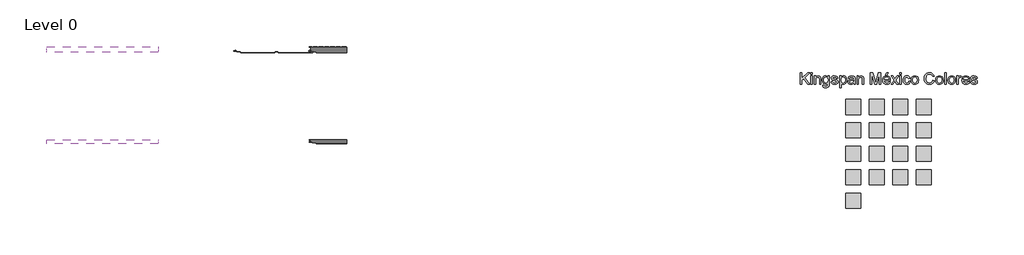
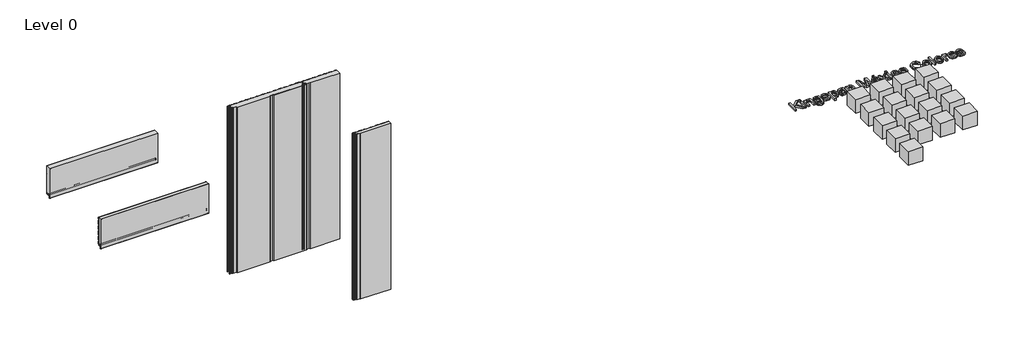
# One storey, incomplete: 18 proxies, 5 plates.
"""IFC4 building model written with IfcOpenShell, lengths in millimetres."""

from ifc_helpers import new_model, si_unit, origin, place, context, project, spatial, transform, mapped, element, save
from components import generic_models_9fd19f98, ks_colour_sample_ks_colour_sample_0243efec, hz_050mm_50226ae4, hz_075mm_503976a9, vt_050mm_20076d70, vt_075mm_7d98ffc3, vt_075mm_ebfdbd6b

model = new_model("IFC4")

# Units and contexts
model_context = context("Model", 3, world=origin())
ifc_project = project(units=[si_unit("LENGTHUNIT", "METRE", prefix="MILLI")], contexts=[model_context])

# Site, building, storey
site = spatial("IfcSite", under=ifc_project)
building = spatial("IfcBuilding", under=site)
storey = spatial("IfcBuildingStorey", under=building, Name="Level 0", Elevation=0.0)

# Proxies
placement = place(None, origin())
generic_models_shape = generic_models_9fd19f98(model_context)
element("IfcBuildingElementProxy", 1, Name="KIP-MX_ColourRange_Spanish : KIP-MX_ColourRange_Spanish", ObjectType="KIP-MX_ColourRange_Spanish : KIP-MX_ColourRange_Spanish", at=placement, inside=storey, context=model_context, shape_type="MappedRepresentation", body=[
    mapped(generic_models_shape, transform((1966.0629502, 11802.7493823, 0.0), x_axis=(1.0, 0.0, 0.0), y_axis=(0.0, 1.0, 0.0), z_axis=(0.0, 0.0, 1.0))),
])
ks_colour_sample_ks_colour_sample_shape = ks_colour_sample_ks_colour_sample_0243efec(model_context)
element("IfcBuildingElementProxy", 2, Name="KS_Colour Sample : KS_Colour Sample", ObjectType="KS_Colour Sample : KS_Colour Sample", at=placement, inside=storey, context=model_context, shape_type="MappedRepresentation", body=[
    mapped(ks_colour_sample_ks_colour_sample_shape, transform((1501.0629502, 13781.2299273, 0.0), x_axis=(1.0, 0.0, 0.0), y_axis=(0.0, 1.0, 0.0), z_axis=(0.0, 0.0, 1.0))),
])
element("IfcBuildingElementProxy", 3, Name="KS_Colour Sample : KS_Colour Sample", ObjectType="KS_Colour Sample : KS_Colour Sample", at=placement, inside=storey, context=model_context, shape_type="MappedRepresentation", body=[
    mapped(ks_colour_sample_ks_colour_sample_shape, transform((1811.0629502, 13781.2299273, 0.0), x_axis=(1.0, 0.0, 0.0), y_axis=(0.0, 1.0, 0.0), z_axis=(0.0, 0.0, 1.0))),
])
element("IfcBuildingElementProxy", 4, Name="KS_Colour Sample : KS_Colour Sample", ObjectType="KS_Colour Sample : KS_Colour Sample", at=placement, inside=storey, context=model_context, shape_type="MappedRepresentation", body=[
    mapped(ks_colour_sample_ks_colour_sample_shape, transform((2121.0629502, 13781.2299273, 0.0), x_axis=(1.0, 0.0, 0.0), y_axis=(0.0, 1.0, 0.0), z_axis=(0.0, 0.0, 1.0))),
])
element("IfcBuildingElementProxy", 5, Name="KS_Colour Sample : KS_Colour Sample", ObjectType="KS_Colour Sample : KS_Colour Sample", at=placement, inside=storey, context=model_context, shape_type="MappedRepresentation", body=[
    mapped(ks_colour_sample_ks_colour_sample_shape, transform((2431.0629502, 13781.2299273, 0.0), x_axis=(1.0, 0.0, 0.0), y_axis=(0.0, 1.0, 0.0), z_axis=(0.0, 0.0, 1.0))),
])
element("IfcBuildingElementProxy", 6, Name="KS_Colour Sample : KS_Colour Sample", ObjectType="KS_Colour Sample : KS_Colour Sample", at=placement, inside=storey, context=model_context, shape_type="MappedRepresentation", body=[
    mapped(ks_colour_sample_ks_colour_sample_shape, transform((1501.0629502, 13471.2299273, 0.0), x_axis=(1.0, 0.0, 0.0), y_axis=(0.0, 1.0, 0.0), z_axis=(0.0, 0.0, 1.0))),
])
element("IfcBuildingElementProxy", 7, Name="KS_Colour Sample : KS_Colour Sample", ObjectType="KS_Colour Sample : KS_Colour Sample", at=placement, inside=storey, context=model_context, shape_type="MappedRepresentation", body=[
    mapped(ks_colour_sample_ks_colour_sample_shape, transform((1811.0629502, 13471.2299273, 0.0), x_axis=(1.0, 0.0, 0.0), y_axis=(0.0, 1.0, 0.0), z_axis=(0.0, 0.0, 1.0))),
])
element("IfcBuildingElementProxy", 8, Name="KS_Colour Sample : KS_Colour Sample", ObjectType="KS_Colour Sample : KS_Colour Sample", at=placement, inside=storey, context=model_context, shape_type="MappedRepresentation", body=[
    mapped(ks_colour_sample_ks_colour_sample_shape, transform((2121.0629502, 13471.2299273, 0.0), x_axis=(1.0, 0.0, 0.0), y_axis=(0.0, 1.0, 0.0), z_axis=(0.0, 0.0, 1.0))),
])
element("IfcBuildingElementProxy", 9, Name="KS_Colour Sample : KS_Colour Sample", ObjectType="KS_Colour Sample : KS_Colour Sample", at=placement, inside=storey, context=model_context, shape_type="MappedRepresentation", body=[
    mapped(ks_colour_sample_ks_colour_sample_shape, transform((2431.0629502, 13471.2299273, 0.0), x_axis=(1.0, 0.0, 0.0), y_axis=(0.0, 1.0, 0.0), z_axis=(0.0, 0.0, 1.0))),
])
element("IfcBuildingElementProxy", 10, Name="KS_Colour Sample : KS_Colour Sample", ObjectType="KS_Colour Sample : KS_Colour Sample", at=placement, inside=storey, context=model_context, shape_type="MappedRepresentation", body=[
    mapped(ks_colour_sample_ks_colour_sample_shape, transform((1501.0629502, 13161.2299273, 0.0), x_axis=(1.0, 0.0, 0.0), y_axis=(0.0, 1.0, 0.0), z_axis=(0.0, 0.0, 1.0))),
])
element("IfcBuildingElementProxy", 11, Name="KS_Colour Sample : KS_Colour Sample", ObjectType="KS_Colour Sample : KS_Colour Sample", at=placement, inside=storey, context=model_context, shape_type="MappedRepresentation", body=[
    mapped(ks_colour_sample_ks_colour_sample_shape, transform((1811.0629502, 13161.2299273, 0.0), x_axis=(1.0, 0.0, 0.0), y_axis=(0.0, 1.0, 0.0), z_axis=(0.0, 0.0, 1.0))),
])
element("IfcBuildingElementProxy", 12, Name="KS_Colour Sample : KS_Colour Sample", ObjectType="KS_Colour Sample : KS_Colour Sample", at=placement, inside=storey, context=model_context, shape_type="MappedRepresentation", body=[
    mapped(ks_colour_sample_ks_colour_sample_shape, transform((2121.0629502, 13161.2299273, 0.0), x_axis=(1.0, 0.0, 0.0), y_axis=(0.0, 1.0, 0.0), z_axis=(0.0, 0.0, 1.0))),
])
element("IfcBuildingElementProxy", 13, Name="KS_Colour Sample : KS_Colour Sample", ObjectType="KS_Colour Sample : KS_Colour Sample", at=placement, inside=storey, context=model_context, shape_type="MappedRepresentation", body=[
    mapped(ks_colour_sample_ks_colour_sample_shape, transform((2431.0629502, 13161.2299273, 0.0), x_axis=(1.0, 0.0, 0.0), y_axis=(0.0, 1.0, 0.0), z_axis=(0.0, 0.0, 1.0))),
])
element("IfcBuildingElementProxy", 14, Name="KS_Colour Sample : KS_Colour Sample", ObjectType="KS_Colour Sample : KS_Colour Sample", at=placement, inside=storey, context=model_context, shape_type="MappedRepresentation", body=[
    mapped(ks_colour_sample_ks_colour_sample_shape, transform((1501.0629502, 12851.2299273, 0.0), x_axis=(1.0, 0.0, 0.0), y_axis=(0.0, 1.0, 0.0), z_axis=(0.0, 0.0, 1.0))),
])
element("IfcBuildingElementProxy", 15, Name="KS_Colour Sample : KS_Colour Sample", ObjectType="KS_Colour Sample : KS_Colour Sample", at=placement, inside=storey, context=model_context, shape_type="MappedRepresentation", body=[
    mapped(ks_colour_sample_ks_colour_sample_shape, transform((1811.0629502, 12851.2299273, 0.0), x_axis=(1.0, 0.0, 0.0), y_axis=(0.0, 1.0, 0.0), z_axis=(0.0, 0.0, 1.0))),
])
element("IfcBuildingElementProxy", 16, Name="KS_Colour Sample : KS_Colour Sample", ObjectType="KS_Colour Sample : KS_Colour Sample", at=placement, inside=storey, context=model_context, shape_type="MappedRepresentation", body=[
    mapped(ks_colour_sample_ks_colour_sample_shape, transform((2121.0629502, 12851.2299273, 0.0), x_axis=(1.0, 0.0, 0.0), y_axis=(0.0, 1.0, 0.0), z_axis=(0.0, 0.0, 1.0))),
])
element("IfcBuildingElementProxy", 17, Name="KS_Colour Sample : KS_Colour Sample", ObjectType="KS_Colour Sample : KS_Colour Sample", at=placement, inside=storey, context=model_context, shape_type="MappedRepresentation", body=[
    mapped(ks_colour_sample_ks_colour_sample_shape, transform((2431.0629502, 12851.2299273, 0.0), x_axis=(1.0, 0.0, 0.0), y_axis=(0.0, 1.0, 0.0), z_axis=(0.0, 0.0, 1.0))),
])
element("IfcBuildingElementProxy", 18, Name="KS_Colour Sample : KS_Colour Sample", ObjectType="KS_Colour Sample : KS_Colour Sample", at=placement, inside=storey, context=model_context, shape_type="MappedRepresentation", body=[
    mapped(ks_colour_sample_ks_colour_sample_shape, transform((1501.0629502, 12541.2299273, 0.0), x_axis=(1.0, 0.0, 0.0), y_axis=(0.0, 1.0, 0.0), z_axis=(0.0, 0.0, 1.0))),
])

# Plates
hz_050mm_shape = hz_050mm_50226ae4(model_context)
element("IfcPlate", 19, ObjectType="KIP-MEX-KW-R19-CP-Hz-KW1_SL : Hz 050mm", at=placement, inside=storey, context=model_context, shape_type="MappedRepresentation", body=[
    mapped(hz_050mm_shape, transform((-8438.7250935, 13346.6881223, 2000.0), x_axis=(1.0, 0.0, 0.0), y_axis=(0.0, 1.0, 0.0), z_axis=(0.0, 0.0, 1.0))),
])
hz_075mm_shape = hz_075mm_503976a9(model_context)
element("IfcPlate", 20, ObjectType="KIP-MEX-KW-R19-CP-Hz-KW1_SL : Hz 075mm", at=placement, inside=storey, context=model_context, shape_type="MappedRepresentation", body=[
    mapped(hz_075mm_shape, transform((-8438.7250935, 14580.6646856, 2000.0), x_axis=(1.0, 0.0, 0.0), y_axis=(0.0, 1.0, 0.0), z_axis=(0.0, 0.0, 1.0))),
])
vt_050mm_shape = vt_050mm_20076d70(model_context)
element("IfcPlate", 21, ObjectType="KIP-MEX-KW-R19-CP-Vt-KW1_SL : Vt 050mm", at=placement, inside=storey, context=model_context, shape_type="MappedRepresentation", body=[
    mapped(vt_050mm_shape, transform((-5438.9413834, 13346.6881223, 0.0), x_axis=(1.0, 0.0, 0.0), y_axis=(0.0, 1.0, 0.0), z_axis=(0.0, 0.0, 1.0))),
])
vt_075mm_shape = vt_075mm_7d98ffc3(model_context)
element("IfcPlate", 22, ObjectType="KIP-MEX-KW-R19-CP-Vt-KW1_SL : Vt 075mm", at=placement, inside=storey, context=model_context, shape_type="MappedRepresentation", body=[
    mapped(vt_075mm_shape, transform((-6178.9413834, 14575.4926205, 0.0), x_axis=(1.0, 0.0, 0.0), y_axis=(0.0, 1.0, 0.0), z_axis=(0.0, 0.0, 1.0))),
])
vt_075mm_2_shape = vt_075mm_ebfdbd6b(model_context)
element("IfcPlate", 23, ObjectType="KIP-MEX-KW-R19-CP-Vt-KW1_SL : Vt 075mm", at=placement, inside=storey, context=model_context, shape_type="MappedRepresentation", body=[
    mapped(vt_075mm_2_shape, transform((-5438.9413834, 14575.4926205, 0.0), x_axis=(1.0, 0.0, 0.0), y_axis=(0.0, 1.0, 0.0), z_axis=(0.0, 0.0, 1.0))),
])

save(model, "model.ifc")
